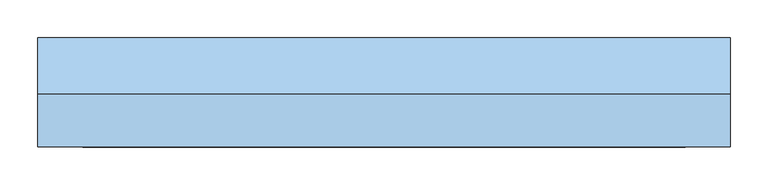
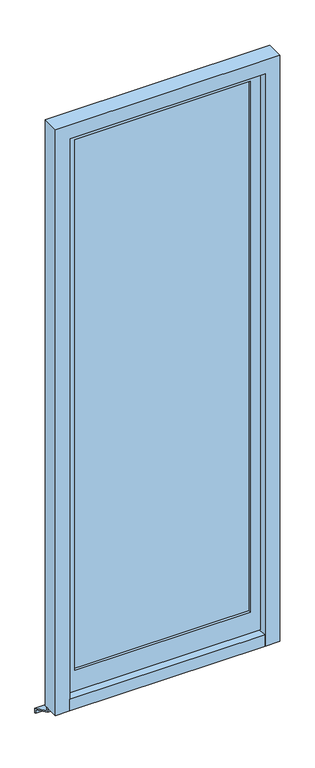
"""IFC4 building model written with IfcOpenShell, lengths in millimetres: window geometry, 380_片開窓_01 : AW3-H2430W800."""

from ifc_helpers import new_model, si_unit, frame, origin, place, context, project, spatial, polyline, outline, extrude, source, transform, mapped, element, save


def window_34b737b2(model_context):
    return source(origin(), model_context, "Body", "SweptSolid", [
        extrude(outline(polyline([(2.5, 835.0), (87.5, 795.0), (87.5, 775.0), (82.5014518, 775.0), (82.5014518, 791.8262891), (-2.5, 831.8269723), (-2.5, 850.0), (2.5, 850.0), (2.5, 835.0)])), frame((-460.0, 0.0, 0.0), z_axis=(1.0, 0.0, 0.0), x_axis=(0.0, 1.0, 0.0)), (0.0, 0.0, 1.0), 920.0),
        extrude(outline(polyline([(360.0, -10.0), (-360.0, -10.0), (-360.0, -5.0), (360.0, -5.0), (360.0, -10.0)])), frame((0.0, 0.0, 990.0), z_axis=(0.0, 0.0, 1.0), x_axis=(1.0, 0.0, 0.0)), (0.0, 0.0, 1.0), 2300.0),
        extrude(outline(polyline([(3330.0, 400.0), (3330.0, -400.0), (900.0, -400.0), (900.0, 400.0), (3330.0, 400.0)]), holes=[polyline([(3290.0, 360.0), (990.0, 360.0), (990.0, -360.0), (3290.0, -360.0), (3290.0, 360.0)])]), frame((0.0, -22.5, 0.0), z_axis=(0.0, 1.0, 0.0), x_axis=(0.0, 0.0, 1.0)), (0.0, 0.0, 1.0), 30.0),
        extrude(outline(polyline([(-57.5, 850.0), (-57.5, 900.0), (12.5, 890.6666667), (12.5, 850.0), (-57.5, 850.0)])), frame((-400.0, 0.0, 0.0), z_axis=(1.0, 0.0, 0.0), x_axis=(0.0, 1.0, 0.0)), (0.0, 0.0, 1.0), 800.0),
        extrude(outline(polyline([(850.0, -460.0), (850.0, -400.0), (3330.0, -400.0), (3330.0, 400.0), (850.0, 400.0), (850.0, 460.0), (3390.0, 460.0), (3390.0, -460.0), (850.0, -460.0)])), frame((0.0, -57.5, 0.0), z_axis=(0.0, 1.0, 0.0), x_axis=(0.0, 0.0, 1.0)), (0.0, 0.0, 1.0), 70.0),
    ])


if __name__ == "__main__":
    model = new_model("IFC4")
    model_context = context("Model", 3, world=origin())
    ifc_project = project(units=[si_unit("LENGTHUNIT", "METRE", prefix="MILLI")], contexts=[model_context])
    site = spatial("IfcSite", under=ifc_project)
    building = spatial("IfcBuilding", under=site)
    placement = place(None, origin())
    window_shape = window_34b737b2(model_context)
    element("IfcWindow", 1, ObjectType="380_片開窓_01 : AW3-H2430W800", at=placement, inside=building, context=model_context, shape_type="MappedRepresentation", body=[
        mapped(window_shape, transform((0.0, 0.0, 0.0), x_axis=(1.0, 0.0, 0.0), y_axis=(0.0, 1.0, 0.0), z_axis=(0.0, 0.0, 1.0))),
    ])
    save(model, "model.ifc")
